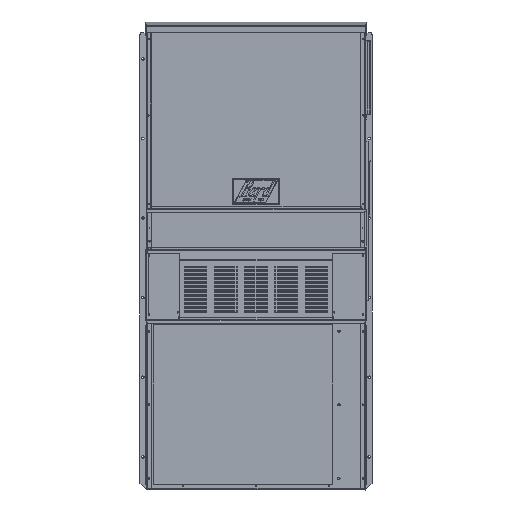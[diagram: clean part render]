
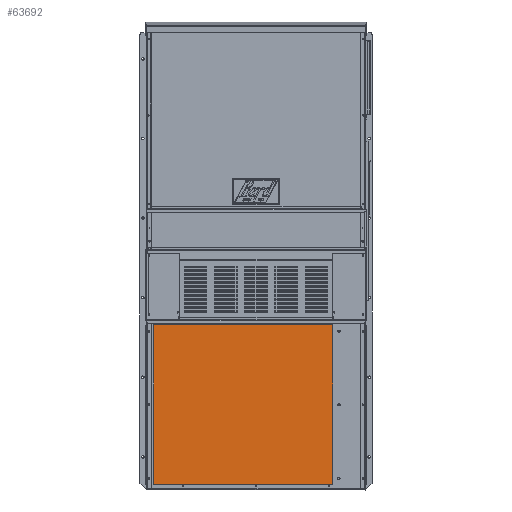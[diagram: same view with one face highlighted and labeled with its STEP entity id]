
A CAD part, top view. The second image highlights one B-rep face of the part: STEP entity #63692.
In plain terms, the highlighted planar face has unit normal (0, 0, 1).
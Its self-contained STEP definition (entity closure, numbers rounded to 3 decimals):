
#153 = EDGE_CURVE ( 'NONE', #100555, #43331, #74570, .T. ) ;
#1733 = CARTESIAN_POINT ( 'NONE',  ( -31.863, -45.592, 16.411 ) ) ;
#14522 = AXIS2_PLACEMENT_3D ( 'NONE', #24853, #121571, #57226 ) ;
#20260 = VECTOR ( 'NONE', #129496, 39.37 ) ;
#24853 = CARTESIAN_POINT ( 'NONE',  ( -4.86, -69.661, 16.411 ) ) ;
#25808 = DIRECTION ( 'NONE',  ( -1., 0., 0. ) ) ;
#27621 = LINE ( 'NONE', #111755, #106617 ) ;
#30121 = VERTEX_POINT ( 'NONE', #65807 ) ;
#32560 = ORIENTED_EDGE ( 'NONE', *, *, #44216, .F. ) ;
#39568 = ORIENTED_EDGE ( 'NONE', *, *, #114409, .F. ) ;
#43331 = VERTEX_POINT ( 'NONE', #1733 ) ;
#44216 = EDGE_CURVE ( 'NONE', #43331, #30121, #105933, .T. ) ;
#46010 = VECTOR ( 'NONE', #123685, 39.37 ) ;
#47492 = ORIENTED_EDGE ( 'NONE', *, *, #52891, .F. ) ;
#48023 = DIRECTION ( 'NONE',  ( 0., -1., 0. ) ) ;
#48557 = CARTESIAN_POINT ( 'NONE',  ( -31.863, -69.661, 16.411 ) ) ;
#52891 = EDGE_CURVE ( 'NONE', #30121, #78287, #60236, .T. ) ;
#57226 = DIRECTION ( 'NONE',  ( 0., -1., 0. ) ) ;
#60236 = LINE ( 'NONE', #133493, #114054 ) ;
#63692 = ADVANCED_FACE ( 'NONE', ( #138735 ), #131901, .T. ) ;
#64796 = CARTESIAN_POINT ( 'NONE',  ( -31.863, -69.661, 16.411 ) ) ;
#65807 = CARTESIAN_POINT ( 'NONE',  ( -4.86, -45.592, 16.411 ) ) ;
#72124 = ORIENTED_EDGE ( 'NONE', *, *, #153, .F. ) ;
#74570 = LINE ( 'NONE', #48557, #46010 ) ;
#75973 = CARTESIAN_POINT ( 'NONE',  ( -31.863, -45.592, 16.411 ) ) ;
#78287 = VERTEX_POINT ( 'NONE', #127051 ) ;
#100555 = VERTEX_POINT ( 'NONE', #64796 ) ;
#105933 = LINE ( 'NONE', #75973, #20260 ) ;
#106617 = VECTOR ( 'NONE', #25808, 39.37 ) ;
#111755 = CARTESIAN_POINT ( 'NONE',  ( -31.863, -69.661, 16.411 ) ) ;
#114054 = VECTOR ( 'NONE', #48023, 39.37 ) ;
#114409 = EDGE_CURVE ( 'NONE', #78287, #100555, #27621, .T. ) ;
#121571 = DIRECTION ( 'NONE',  ( 0., 0., 1. ) ) ;
#123685 = DIRECTION ( 'NONE',  ( 0., 1., 0. ) ) ;
#127051 = CARTESIAN_POINT ( 'NONE',  ( -4.86, -69.661, 16.411 ) ) ;
#129496 = DIRECTION ( 'NONE',  ( 1., 0., 0. ) ) ;
#131901 = PLANE ( 'NONE',  #14522 ) ;
#133493 = CARTESIAN_POINT ( 'NONE',  ( -4.86, -69.661, 16.411 ) ) ;
#138404 = EDGE_LOOP ( 'NONE', ( #32560, #72124, #39568, #47492 ) ) ;
#138735 = FACE_OUTER_BOUND ( 'NONE', #138404, .T. ) ;
